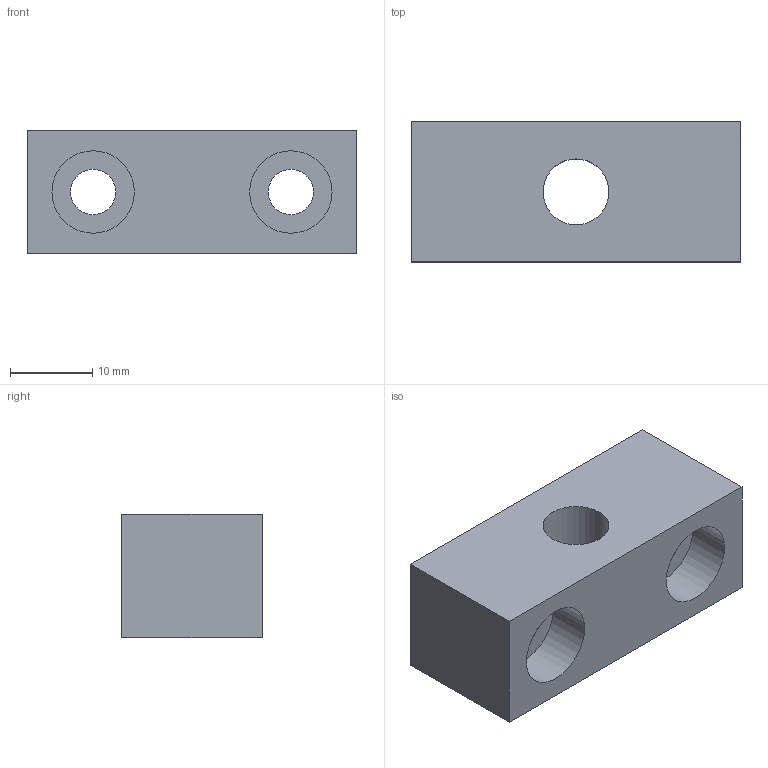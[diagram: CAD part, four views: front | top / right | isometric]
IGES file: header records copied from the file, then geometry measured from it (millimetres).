
Start section: 3D InterOp IGES (v. 2018 1.0.2), Spatial Corp. Copyright (c) 1999-2017.
Global section: file name: MAU_5002_40.igs; native system: Spatial Corp.; preprocessor: 3D InterOp GENERIC/IGES 3.0; author: Noname; organization: Noname; date: 20191010.134825; units: metre
Bounding box: 40 x 17 x 15 mm (x, y, z)
Surface area: 3991.6 mm2 (no closed solid volume)
Topology: 0 solids, 0 shells, 18 faces, 84 edges, 84 vertices
Faces by surface type: revolution 10, extrusion 8
